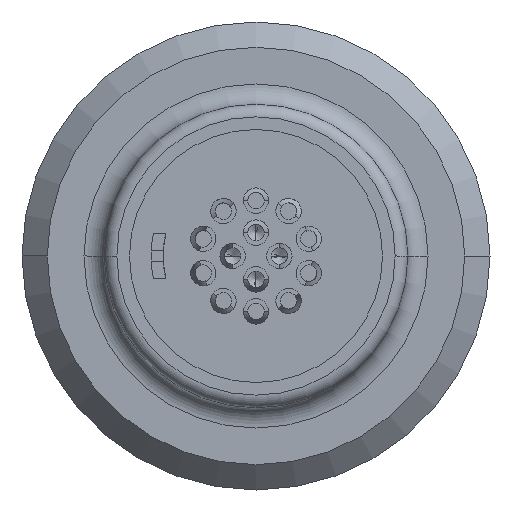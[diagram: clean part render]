
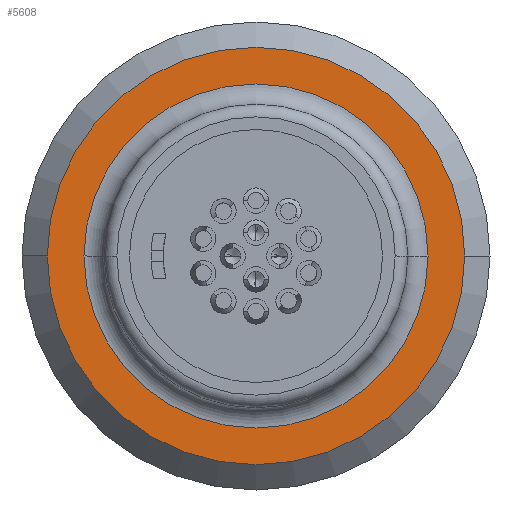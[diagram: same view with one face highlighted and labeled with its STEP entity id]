
A CAD part, left-side view. The second image highlights one B-rep face of the part: STEP entity #5608.
In plain terms, the highlighted planar face has unit normal (-1, 0, 0).
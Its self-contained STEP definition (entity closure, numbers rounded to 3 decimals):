
#375=CARTESIAN_POINT('',(-4.,0.,0.));
#376=DIRECTION('',(1.,0.,0.));
#377=DIRECTION('',(0.,-1.,0.));
#378=AXIS2_PLACEMENT_3D('',#375,#376,#377);
#380=CARTESIAN_POINT('',(-4.,0.,0.));
#381=DIRECTION('',(1.,0.,0.));
#382=DIRECTION('',(0.,0.,-1.));
#383=AXIS2_PLACEMENT_3D('',#380,#381,#382);
#385=CARTESIAN_POINT('',(-4.,0.,0.));
#386=DIRECTION('',(1.,0.,0.));
#387=DIRECTION('',(0.,1.,0.));
#388=AXIS2_PLACEMENT_3D('',#385,#386,#387);
#390=CARTESIAN_POINT('',(-4.,0.,0.));
#391=DIRECTION('',(1.,0.,0.));
#392=DIRECTION('',(0.,0.,1.));
#393=AXIS2_PLACEMENT_3D('',#390,#391,#392);
#395=CARTESIAN_POINT('',(-4.,0.,0.));
#396=DIRECTION('',(-1.,0.,0.));
#397=DIRECTION('',(0.,-1.,0.));
#398=AXIS2_PLACEMENT_3D('',#395,#396,#397);
#400=CARTESIAN_POINT('',(-4.,0.,0.));
#401=DIRECTION('',(-1.,0.,0.));
#402=DIRECTION('',(0.,1.,0.));
#403=AXIS2_PLACEMENT_3D('',#400,#401,#402);
#4543=CARTESIAN_POINT('',(-4.,-8.25,0.));
#4544=VERTEX_POINT('',#4543);
#4545=CARTESIAN_POINT('',(-4.,8.25,0.));
#4546=CARTESIAN_POINT('',(-4.,0.,8.25));
#4547=VERTEX_POINT('',#4545);
#4548=VERTEX_POINT('',#4546);
#4551=CARTESIAN_POINT('',(-4.,0.,-8.25));
#4552=VERTEX_POINT('',#4551);
#4553=CARTESIAN_POINT('',(-4.,-6.8,-0.001));
#4554=CARTESIAN_POINT('',(-4.,6.8,0.001));
#4555=VERTEX_POINT('',#4553);
#4556=VERTEX_POINT('',#4554);
#5588=CARTESIAN_POINT('',(-4.,0.,0.));
#5589=DIRECTION('',(-1.,0.,0.));
#5590=DIRECTION('',(0.,-1.,0.));
#5591=AXIS2_PLACEMENT_3D('',#5588,#5589,#5590);
#5592=PLANE('',#5591);
#5594=ORIENTED_EDGE('',*,*,#5593,.T.);
#5596=ORIENTED_EDGE('',*,*,#5595,.T.);
#5598=ORIENTED_EDGE('',*,*,#5597,.T.);
#5600=ORIENTED_EDGE('',*,*,#5599,.T.);
#5601=EDGE_LOOP('',(#5594,#5596,#5598,#5600));
#5602=FACE_OUTER_BOUND('',#5601,.F.);
#5604=ORIENTED_EDGE('',*,*,#5603,.T.);
#5605=ORIENTED_EDGE('',*,*,#5571,.T.);
#5606=EDGE_LOOP('',(#5604,#5605));
#5607=FACE_BOUND('',#5606,.F.);
#379=CIRCLE('',#378,8.25);
#384=CIRCLE('',#383,8.25);
#389=CIRCLE('',#388,8.25);
#394=CIRCLE('',#393,8.25);
#399=CIRCLE('',#398,6.8);
#404=CIRCLE('',#403,6.8);
#5571=EDGE_CURVE('',#4556,#4555,#404,.T.);
#5593=EDGE_CURVE('',#4544,#4552,#379,.T.);
#5595=EDGE_CURVE('',#4552,#4547,#384,.T.);
#5597=EDGE_CURVE('',#4547,#4548,#389,.T.);
#5599=EDGE_CURVE('',#4548,#4544,#394,.T.);
#5603=EDGE_CURVE('',#4555,#4556,#399,.T.);
#5608=ADVANCED_FACE('',(#5602,#5607),#5592,.T.);
